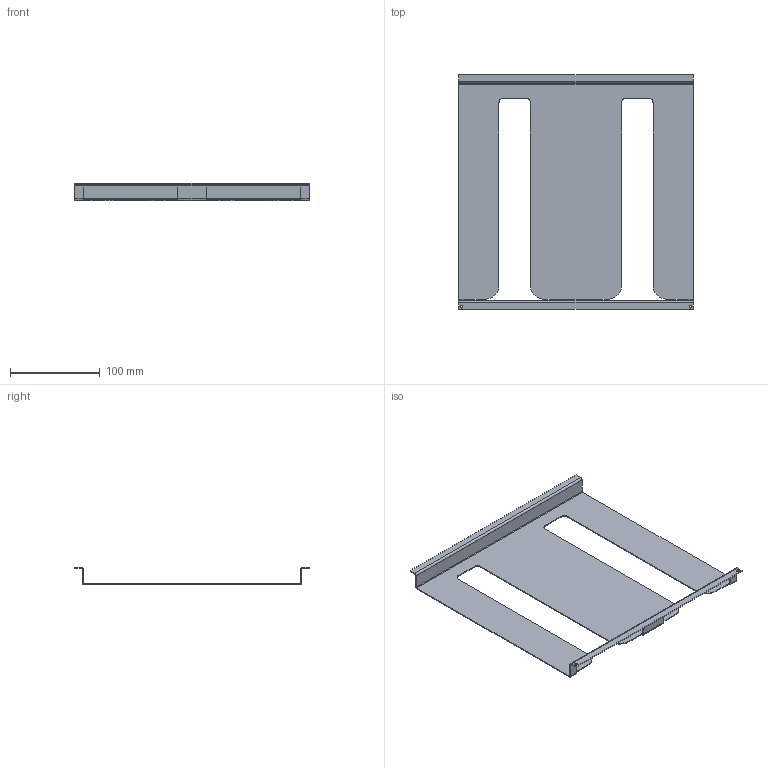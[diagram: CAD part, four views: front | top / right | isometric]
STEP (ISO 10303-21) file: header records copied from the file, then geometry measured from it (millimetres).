
FILE_DESCRIPTION(/* description */ ('Unknown'),/* implementation_level */ '2;1');
FILE_NAME(/* name */ 'Glashalter',/* time_stamp */ '2024-04-04T11:49:48+02:00',/* author */ ('Unknown'),/* organization */ ('Unknown'),/* preprocessor_version */ 'ST-DEVELOPER v19.4',/* originating_system */ 'Solid Edge',/* authorisation */ 'Unknown');
FILE_SCHEMA (('AUTOMOTIVE_DESIGN {1 0 10303 214 3 1 1}'));
Length unit declared in the file: millimetre
Products named in the file (1): Glashalter
Bounding box: 262 x 262 x 19.5 mm (x, y, z)
Volume: 58047.7 mm3; surface area: 118584.1 mm2
Topology: 1 solids, 1 shells, 52 faces, 162 edges, 108 vertices
Faces by surface type: plane 30, cylinder 22
Full cylindrical faces by diameter (mm): 3 x2
Entity records: 1846 total; most frequent: CARTESIAN_POINT 321, ORIENTED_EDGE 320, DIRECTION 310, EDGE_CURVE 160, LINE 116, VECTOR 116, VERTEX_POINT 108, AXIS2_PLACEMENT_3D 97
